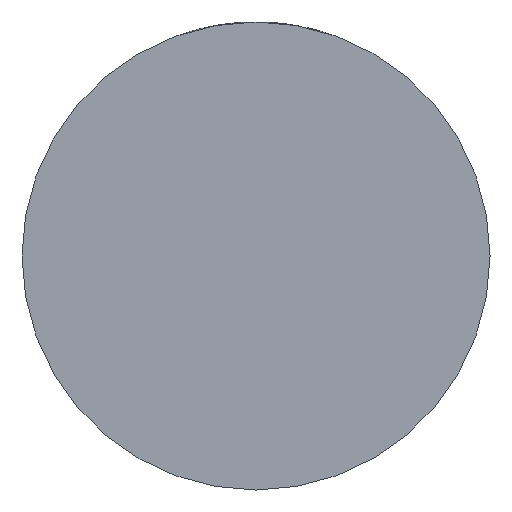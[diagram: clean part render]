
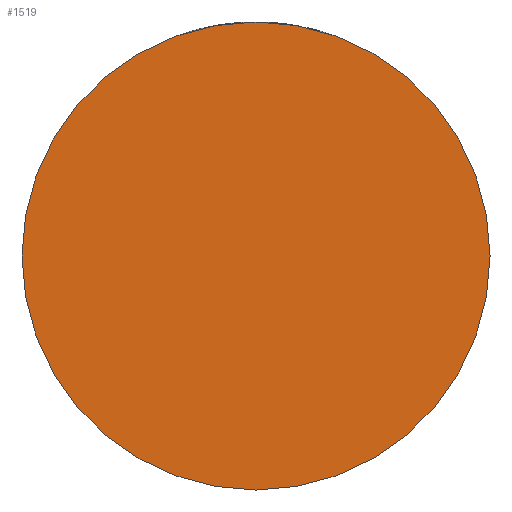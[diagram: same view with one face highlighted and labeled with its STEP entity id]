
A CAD part, front view. The second image highlights one B-rep face of the part: STEP entity #1519.
In plain terms, the highlighted planar face has unit normal (0, -1, 0).
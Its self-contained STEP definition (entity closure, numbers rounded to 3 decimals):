
#71 = DIRECTION ( 'NONE',  ( 1., 0., 0. ) ) ;
#106 = EDGE_CURVE ( 'NONE', #586, #2217, #3878, .T. ) ;
#381 = CARTESIAN_POINT ( 'NONE',  ( 0., -26., 0. ) ) ;
#420 = DIRECTION ( 'NONE',  ( 1., 0., 0. ) ) ;
#454 = AXIS2_PLACEMENT_3D ( 'NONE', #4346, #1350, #612 ) ;
#586 = VERTEX_POINT ( 'NONE', #2666 ) ;
#612 = DIRECTION ( 'NONE',  ( 1., 0., 0. ) ) ;
#881 = AXIS2_PLACEMENT_3D ( 'NONE', #381, #1383, #71 ) ;
#920 = EDGE_CURVE ( 'NONE', #2217, #586, #1457, .T. ) ;
#1067 = DIRECTION ( 'NONE',  ( 0., -1., 0. ) ) ;
#1350 = DIRECTION ( 'NONE',  ( 0., -1., 0. ) ) ;
#1383 = DIRECTION ( 'NONE',  ( 0., -1., 0. ) ) ;
#1457 = CIRCLE ( 'NONE', #454, 32.5 ) ;
#1519 = ADVANCED_FACE ( 'NONE', ( #4122 ), #3772, .T. ) ;
#1912 = AXIS2_PLACEMENT_3D ( 'NONE', #2425, #1067, #420 ) ;
#1944 = ORIENTED_EDGE ( 'NONE', *, *, #106, .T. ) ;
#2217 = VERTEX_POINT ( 'NONE', #3539 ) ;
#2425 = CARTESIAN_POINT ( 'NONE',  ( 0., -26., 0. ) ) ;
#2666 = CARTESIAN_POINT ( 'NONE',  ( 32.5, -26., 0. ) ) ;
#3539 = CARTESIAN_POINT ( 'NONE',  ( -32.5, -26., 0. ) ) ;
#3772 = PLANE ( 'NONE',  #1912 ) ;
#3878 = CIRCLE ( 'NONE', #881, 32.5 ) ;
#3919 = EDGE_LOOP ( 'NONE', ( #4143, #1944 ) ) ;
#4122 = FACE_OUTER_BOUND ( 'NONE', #3919, .T. ) ;
#4143 = ORIENTED_EDGE ( 'NONE', *, *, #920, .T. ) ;
#4346 = CARTESIAN_POINT ( 'NONE',  ( 0., -26., 0. ) ) ;
